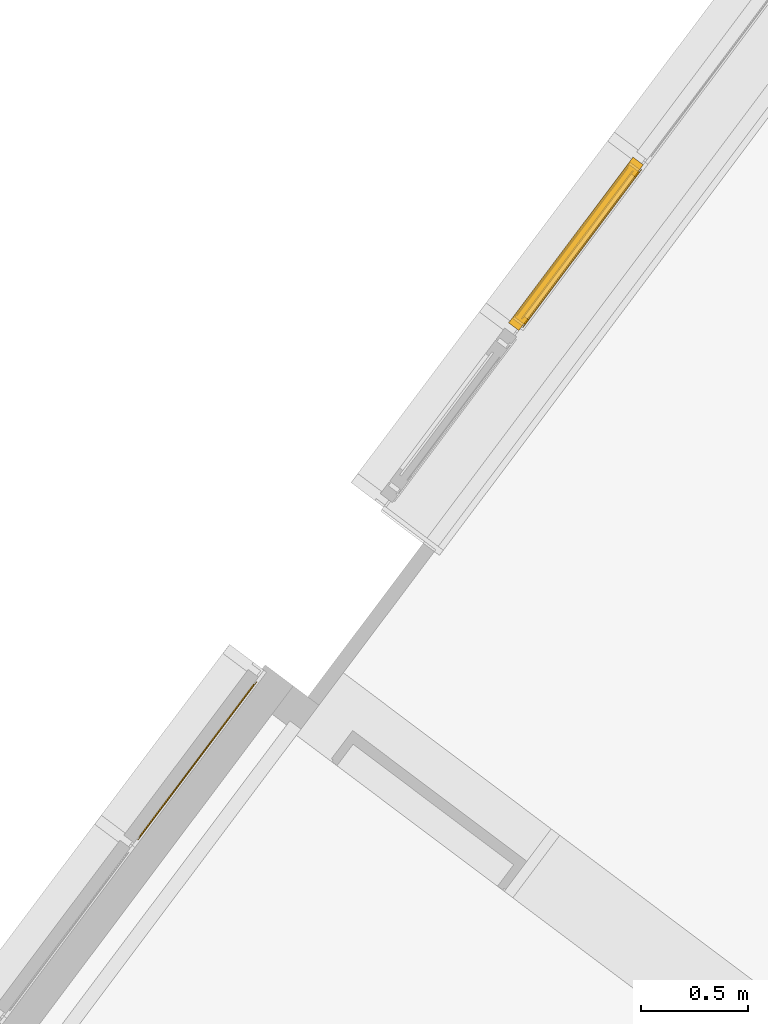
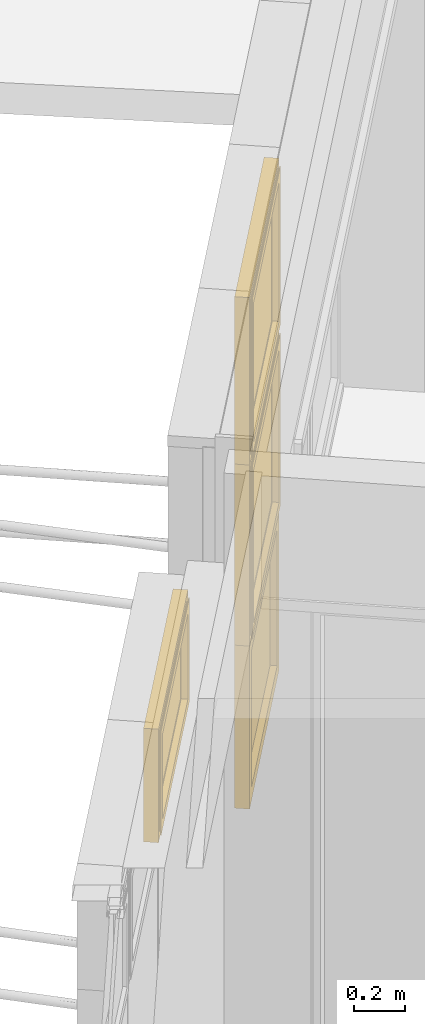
# One storey, part 161 of 243: 4 windows, 2 elements without a shape of their own.
"""IFC2X3 building model written with IfcOpenShell, lengths in metres."""

from ifc_helpers import new_model, entity, si_unit, converted_unit, derived_unit, direction, frame, origin, place, context, subcontext, project, spatial, faceted_brep, source, transform, mapped, material, material_list, type_object, type_shapes, element, aggregate, save


model = new_model("IFC2X3")

# Units and contexts
model_context = context("Model", 3, precision=1e-05, world=origin(), true_north=direction((6.123031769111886e-17, 1.0)))
body_context = subcontext(model_context, "Body", "Model", "MODEL_VIEW")
ifc_project = project(units=[si_unit("LENGTHUNIT", "METRE"), si_unit("AREAUNIT", "SQUARE_METRE"), si_unit("VOLUMEUNIT", "CUBIC_METRE"), converted_unit("PLANEANGLEUNIT", "DEGREE", entity("IfcRatioMeasure", 0.017453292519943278), si_unit("PLANEANGLEUNIT", "RADIAN"), dimensions=[0, 0, 0, 0, 0, 0, 0]), si_unit("MASSUNIT", "GRAM", prefix="KILO"), derived_unit("MASSDENSITYUNIT", [(si_unit("MASSUNIT", "GRAM", prefix="KILO"), 1), (si_unit("LENGTHUNIT", "METRE"), -3)]), derived_unit("IONCONCENTRATIONUNIT", [(si_unit("MASSUNIT", "GRAM", prefix="KILO"), 1), (si_unit("LENGTHUNIT", "METRE"), -3)]), derived_unit("MOMENTOFINERTIAUNIT", [(si_unit("LENGTHUNIT", "METRE"), 4)]), si_unit("TIMEUNIT", "SECOND"), si_unit("FREQUENCYUNIT", "HERTZ"), si_unit("THERMODYNAMICTEMPERATUREUNIT", "DEGREE_CELSIUS"), derived_unit("THERMALTRANSMITTANCEUNIT", [(si_unit("MASSUNIT", "GRAM", prefix="KILO"), 1), (si_unit("THERMODYNAMICTEMPERATUREUNIT", "KELVIN"), -1), (si_unit("TIMEUNIT", "SECOND"), -3)]), derived_unit("THERMALCONDUCTANCEUNIT", [(si_unit("MASSUNIT", "GRAM", prefix="KILO"), 1), (si_unit("THERMODYNAMICTEMPERATUREUNIT", "KELVIN"), -1), (si_unit("TIMEUNIT", "SECOND"), -3), (si_unit("LENGTHUNIT", "METRE"), 1)]), derived_unit("VOLUMETRICFLOWRATEUNIT", [(si_unit("LENGTHUNIT", "METRE"), 3), (si_unit("TIMEUNIT", "SECOND"), -1)]), derived_unit("MASSFLOWRATEUNIT", [(si_unit("MASSUNIT", "GRAM", prefix="KILO"), 1), (si_unit("TIMEUNIT", "SECOND"), -1)]), derived_unit("ROTATIONALFREQUENCYUNIT", [(si_unit("TIMEUNIT", "SECOND"), -1)]), si_unit("ELECTRICCURRENTUNIT", "AMPERE"), si_unit("ELECTRICVOLTAGEUNIT", "VOLT"), si_unit("POWERUNIT", "WATT"), si_unit("FORCEUNIT", "NEWTON", prefix="KILO"), si_unit("ILLUMINANCEUNIT", "LUX"), si_unit("LUMINOUSFLUXUNIT", "LUMEN"), si_unit("LUMINOUSINTENSITYUNIT", "CANDELA"), derived_unit("USERDEFINED", [(si_unit("MASSUNIT", "GRAM", prefix="KILO"), -1), (si_unit("LENGTHUNIT", "METRE"), -2), (si_unit("TIMEUNIT", "SECOND"), 3), (si_unit("LUMINOUSFLUXUNIT", "LUMEN"), 1)]), derived_unit("USERDEFINED", [(si_unit("MASSUNIT", "GRAM", prefix="KILO"), 1), (si_unit("TIMEUNIT", "SECOND"), -3), (si_unit("LENGTHUNIT", "METRE"), 3), (si_unit("ELECTRICCURRENTUNIT", "AMPERE"), -2)]), derived_unit("SOUNDPOWERUNIT", [(si_unit("MASSUNIT", "GRAM", prefix="KILO"), 1), (si_unit("TIMEUNIT", "SECOND"), -3), (si_unit("LENGTHUNIT", "METRE"), 2)]), derived_unit("SOUNDPRESSUREUNIT", [(si_unit("MASSUNIT", "GRAM", prefix="KILO"), 1), (si_unit("LENGTHUNIT", "METRE"), -1), (si_unit("TIMEUNIT", "SECOND"), -2)]), derived_unit("LINEARVELOCITYUNIT", [(si_unit("LENGTHUNIT", "METRE"), 1), (si_unit("TIMEUNIT", "SECOND"), -1)]), si_unit("PRESSUREUNIT", "PASCAL"), derived_unit("USERDEFINED", [(si_unit("MASSUNIT", "GRAM", prefix="KILO"), 1), (si_unit("LENGTHUNIT", "METRE"), -2), (si_unit("TIMEUNIT", "SECOND"), -2)]), derived_unit("LINEARFORCEUNIT", [(si_unit("MASSUNIT", "GRAM", prefix="KILO"), 1), (si_unit("TIMEUNIT", "SECOND"), -2)]), derived_unit("PLANARFORCEUNIT", [(si_unit("MASSUNIT", "GRAM", prefix="KILO"), 1), (si_unit("LENGTHUNIT", "METRE"), -1), (si_unit("TIMEUNIT", "SECOND"), -2)]), derived_unit("SPECIFICHEATCAPACITYUNIT", [(si_unit("THERMODYNAMICTEMPERATUREUNIT", "KELVIN"), -1), (si_unit("LENGTHUNIT", "METRE"), 2), (si_unit("TIMEUNIT", "SECOND"), -2)]), derived_unit("HEATINGVALUEUNIT", [(si_unit("LENGTHUNIT", "METRE"), 2), (si_unit("TIMEUNIT", "SECOND"), -2)]), derived_unit("VAPORPERMEABILITYUNIT", [(si_unit("LENGTHUNIT", "METRE"), -1), (si_unit("TIMEUNIT", "SECOND"), 1)]), derived_unit("DYNAMICVISCOSITYUNIT", [(si_unit("MASSUNIT", "GRAM", prefix="KILO"), 1), (si_unit("TIMEUNIT", "SECOND"), -1), (si_unit("LENGTHUNIT", "METRE"), -1)]), derived_unit("THERMALEXPANSIONCOEFFICIENTUNIT", [(si_unit("THERMODYNAMICTEMPERATUREUNIT", "KELVIN"), -1)]), derived_unit("MODULUSOFELASTICITYUNIT", [(si_unit("MASSUNIT", "GRAM", prefix="KILO"), 1), (si_unit("LENGTHUNIT", "METRE"), -1), (si_unit("TIMEUNIT", "SECOND"), -2)]), derived_unit("ISOTHERMALMOISTURECAPACITYUNIT", [(si_unit("LENGTHUNIT", "METRE"), 3), (si_unit("MASSUNIT", "GRAM", prefix="KILO"), -1)]), derived_unit("MOISTUREDIFFUSIVITYUNIT", [(si_unit("TIMEUNIT", "SECOND"), -1), (si_unit("LENGTHUNIT", "METRE"), 2)])], contexts=[model_context])

# Site, building, storey
site_placement = place(None, frame((0.0, 0.0, 235.0), z_axis=(0.0, 0.0, 1.0), x_axis=(-0.7996477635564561, 0.6004693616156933, 0.0)))
site = spatial("IfcSite", under=ifc_project, at=site_placement, Name="Default", CompositionType="ELEMENT")
building_placement = place(site_placement, origin())
building = spatial("IfcBuilding", under=site, at=building_placement, CompositionType="ELEMENT")
storey_placement = place(building_placement, origin())
storey = spatial("IfcBuildingStorey", under=building, at=storey_placement, Name="P0- Escola", CompositionType="ELEMENT", Elevation=0.0)

# Curtain wall, windows
curtain_wall_type = type_object("IfcCurtainWallType", Name="Muro cortina:MC- EXT- MC2", PredefinedType="NOTDEFINED")
curtain_wall_1_placement = place(storey_placement, origin())
curtain_wall_1 = element("IfcCurtainWall", 1, at=curtain_wall_1_placement, inside=storey, type_object=curtain_wall_type, Name="Muro cortina:MC- EXT- MC2", ObjectType="Muro cortina:MC- EXT- MC2")
ifc_material_1 = material(Name="_Vidre")
ifc_material_2 = material(Name="_Alumini- T1- Perfil")
ifc_material_list = material_list([ifc_material_1, ifc_material_2])
window_style_1 = type_object("IfcWindowStyle", Name="MC- Alu- Conjunt vidre fix- 62x60 cm:MC- Alu- Conjunt vidre fix- 62x60 cm", ConstructionType="NOTDEFINED", OperationType="NOTDEFINED", ParameterTakesPrecedence=False, Sizeable=False, material=ifc_material_list)
shared_shape_1 = source(origin(), body_context, "Body", "Brep", [
    faceted_brep([(-0.43619328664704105, -0.007600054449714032, 0.048806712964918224), (0.43619328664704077, -0.007600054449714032, 0.048806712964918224), (0.43619328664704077, -0.03160022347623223, 0.048806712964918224), (-0.43619328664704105, -0.03160022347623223, 0.048806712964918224), (-0.43619328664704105, -0.007600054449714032, 0.7387000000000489), (0.43619328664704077, -0.007600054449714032, 0.7387000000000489), (0.43619328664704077, -0.03160022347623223, 0.7387000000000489), (-0.43619328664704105, -0.03160022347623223, 0.7387000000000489)], [[[0, 1, 2, 3]], [[4, 5, 1, 0]], [[5, 6, 2, 1]], [[6, 7, 3, 2]], [[7, 4, 0, 3]], [[4, 7, 6, 5]]]),
    faceted_brep([(-0.4849999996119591, -0.05999999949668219, 0.7877000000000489), (-0.4849999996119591, 0.0, 0.7877000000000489), (-0.4849999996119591, 0.0, 0.0), (-0.4849999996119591, -0.05999999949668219, 0.0), (-0.422193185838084, 0.0, 0.7248931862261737), (-0.4221931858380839, 0.0, 0.06280681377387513), (0.42219318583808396, 0.0, 0.06280681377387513), (0.42219318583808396, 0.0, 0.7248931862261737), (0.4849999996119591, 0.0, 0.7877000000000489), (0.4849999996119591, 0.0, 0.0), (0.4849999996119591, -0.05999999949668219, 0.0), (0.4849999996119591, -0.05999999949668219, 0.7877000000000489), (0.4221960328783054, -0.05999999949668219, 0.7248960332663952), (0.4221960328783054, -0.05999999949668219, 0.0628039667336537), (-0.4221960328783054, -0.05999999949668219, 0.0628039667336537), (-0.4221960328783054, -0.05999999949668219, 0.7248960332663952), (-0.4221960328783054, -0.03160022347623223, 0.7248960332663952), (-0.4221960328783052, -0.03160022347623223, 0.06280396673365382), (0.4221960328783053, -0.03160022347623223, 0.06280396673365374), (0.42219603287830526, -0.03160022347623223, 0.7248960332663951), (0.43619328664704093, -0.03160022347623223, 0.7388932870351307), (0.43619328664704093, -0.03160022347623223, 0.048806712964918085), (-0.43619328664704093, -0.03160022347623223, 0.04880671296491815), (-0.43619328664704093, -0.03160022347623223, 0.7388932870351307), (-0.43619328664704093, -0.007600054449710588, 0.7388932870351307), (-0.43619328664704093, -0.007600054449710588, 0.04880671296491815), (0.43619328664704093, -0.007600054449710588, 0.048806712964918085), (0.43619328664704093, -0.007600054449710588, 0.7388932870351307), (0.42219318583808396, -0.007600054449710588, 0.7248931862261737), (0.42219318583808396, -0.007600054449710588, 0.06280681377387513), (-0.42219318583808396, -0.007600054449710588, 0.06280681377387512), (-0.42219318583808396, -0.007600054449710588, 0.7248931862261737)], [[[0, 1, 2, 3]], [[4, 5, 6, 7], [8, 9, 2, 1]], [[3, 2, 9, 10]], [[0, 3, 10, 11], [12, 13, 14, 15]], [[16, 15, 14, 17]], [[17, 14, 13, 18]], [[16, 17, 18, 19], [20, 21, 22, 23]], [[24, 23, 22, 25]], [[25, 22, 21, 26]], [[24, 25, 26, 27], [28, 29, 30, 31]], [[4, 31, 30, 5]], [[5, 30, 29, 6]], [[10, 9, 8, 11]], [[18, 13, 12, 19]], [[26, 21, 20, 27]], [[6, 29, 28, 7]], [[11, 8, 1, 0]], [[19, 12, 15, 16]], [[27, 20, 23, 24]], [[7, 28, 31, 4]]], outer=[[True], [False, True], [True], [True, False], [True], [True], [False, True], [True], [True], [True, False], [True], [True], [True], [True], [True], [True], [True], [True], [True], [True]]),
])
type_shapes(window_style_1, [shared_shape_1])
window_1_placement = place(curtain_wall_1_placement, frame((23.94514768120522, -31.915191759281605, 0.03229999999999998), z_axis=(0.0, 0.0, 1.0), x_axis=(0.0, -1.0, 0.0)))
window_1 = element("IfcWindow", 2, at=window_1_placement, type_object=window_style_1, material=ifc_material_list, Name="MC- Alu- Conjunt vidre fix- 62x60 cm:MC- Alu- Conjunt vidre fix- 62x60 cm", ObjectType="MC- Alu- Conjunt vidre fix- 62x60 cm:MC- Alu- Conjunt vidre fix- 62x60 cm", OverallHeight=0.7877000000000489, OverallWidth=0.9699999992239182, context=body_context, shape_type="MappedRepresentation", body=[
    mapped(shared_shape_1, transform((0.0, 0.0, 0.0), scale=1.0)),
])
window_style_2 = type_object("IfcWindowStyle", Name="MC- Alu- Conjunt finestra basculant- 68x68 cm:MC- Alu- Conjunt finestra basculant- 68x68 cm", ConstructionType="NOTDEFINED", OperationType="NOTDEFINED", ParameterTakesPrecedence=False, Sizeable=False, material=ifc_material_list)
shared_shape_2 = source(origin(), body_context, "Body", "Brep", [
    faceted_brep([(-0.43291170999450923, -0.03559830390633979, 0.051999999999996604), (-0.43291170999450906, -0.011598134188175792, 0.051999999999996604), (0.43291170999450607, -0.011598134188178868, 0.051999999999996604), (0.43291170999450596, -0.03559830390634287, 0.051999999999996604), (-0.43291170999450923, -0.03559830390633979, 0.8228027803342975), (-0.4329117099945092, -0.011598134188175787, 0.8228027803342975), (0.43291170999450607, -0.011598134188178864, 0.8228027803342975), (0.43291170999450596, -0.03559830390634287, 0.8228027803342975)], [[[0, 1, 2, 3]], [[4, 5, 1, 0]], [[5, 6, 2, 1]], [[6, 7, 3, 2]], [[7, 4, 0, 3]], [[4, 7, 6, 5]]]),
    faceted_brep([(0.4172108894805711, -0.009998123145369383, 0.8071019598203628), (0.4172108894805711, -0.007998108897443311, 0.8071019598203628), (0.4172108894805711, -0.007998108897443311, 0.06789804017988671), (0.4172108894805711, -0.009998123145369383, 0.06789804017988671), (0.44610892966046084, -0.007998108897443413, 0.8360000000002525), (0.44610892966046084, -0.007998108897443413, 0.03899999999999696), (-0.44610892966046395, -0.007998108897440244, 0.03899999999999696), (-0.44610892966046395, -0.007998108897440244, 0.8360000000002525), (-0.4172108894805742, -0.007998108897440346, 0.8071019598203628), (-0.4172108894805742, -0.007998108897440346, 0.06789804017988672), (-0.4172108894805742, -0.009998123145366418, 0.06789804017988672), (-0.4172108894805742, -0.009998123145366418, 0.8071019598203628), (-0.4329117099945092, -0.00999812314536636, 0.8228027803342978), (-0.4329117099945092, -0.009998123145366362, 0.05219721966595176), (0.43291170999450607, -0.009998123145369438, 0.052197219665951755), (0.43291170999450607, -0.009998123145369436, 0.8228027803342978), (0.4329117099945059, -0.04079986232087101, 0.8228027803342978), (0.4329117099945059, -0.04079986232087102, 0.052197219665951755), (-0.4329117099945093, -0.04079986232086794, 0.05219721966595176), (-0.4329117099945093, -0.04079986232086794, 0.8228027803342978), (-0.41721088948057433, -0.040799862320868, 0.8071019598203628), (-0.41721088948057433, -0.040799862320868, 0.06789804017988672), (0.41721088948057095, -0.04079986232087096, 0.06789804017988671), (0.41721088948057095, -0.04079986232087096, 0.8071019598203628), (0.41721088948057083, -0.06800005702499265, 0.8071019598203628), (0.4172108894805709, -0.06800005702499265, 0.06789804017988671), (-0.4172108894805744, -0.0680000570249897, 0.06789804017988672), (-0.4172108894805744, -0.0680000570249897, 0.8071019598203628), (-0.4636128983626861, -0.06800005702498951, 0.8535039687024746), (-0.4636128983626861, -0.06800005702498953, 0.021496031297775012), (0.4636128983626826, -0.06800005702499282, 0.021496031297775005), (0.4636128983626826, -0.06800005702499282, 0.8535039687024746), (0.4636128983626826, -0.0645000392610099, 0.8535039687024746), (0.4636128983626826, -0.0645000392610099, 0.021496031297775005), (-0.4636128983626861, -0.06450003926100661, 0.021496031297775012), (-0.4636128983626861, -0.06450003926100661, 0.8535039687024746), (-0.44610892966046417, -0.06450003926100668, 0.8360000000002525), (-0.44610892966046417, -0.06450003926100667, 0.03899999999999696), (0.4461089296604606, -0.06450003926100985, 0.038999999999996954), (0.4461089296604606, -0.06450003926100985, 0.8360000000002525)], [[[0, 1, 2, 3]], [[4, 5, 6, 7], [8, 9, 2, 1]], [[3, 2, 9, 10]], [[0, 3, 10, 11], [12, 13, 14, 15]], [[16, 15, 14, 17]], [[17, 14, 13, 18]], [[16, 17, 18, 19], [20, 21, 22, 23]], [[24, 23, 22, 25]], [[25, 22, 21, 26]], [[24, 25, 26, 27], [28, 29, 30, 31]], [[32, 31, 30, 33]], [[33, 30, 29, 34]], [[32, 33, 34, 35], [36, 37, 38, 39]], [[4, 39, 38, 5]], [[5, 38, 37, 6]], [[10, 9, 8, 11]], [[18, 13, 12, 19]], [[26, 21, 20, 27]], [[34, 29, 28, 35]], [[6, 37, 36, 7]], [[11, 8, 1, 0]], [[19, 12, 15, 16]], [[27, 20, 23, 24]], [[35, 28, 31, 32]], [[7, 36, 39, 4]]], outer=[[True], [True, False], [True], [False, True], [True], [True], [True, False], [True], [True], [False, True], [True], [True], [True, False], [True], [True], [True], [True], [True], [True], [True], [True], [True], [True], [True], [True]]),
    faceted_brep([(-0.42219318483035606, 0.0, 0.8121931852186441), (-0.42219318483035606, -0.0040000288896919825, 0.8121931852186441), (-0.422193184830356, -0.0040000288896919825, 0.06280681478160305), (-0.42219318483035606, 0.0, 0.06280681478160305), (-0.4575998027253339, -0.0040000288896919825, 0.847599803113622), (-0.4575998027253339, -0.0040000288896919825, 0.027400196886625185), (0.4575998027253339, -0.0040000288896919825, 0.027400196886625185), (0.4575998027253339, -0.0040000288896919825, 0.847599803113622), (0.422193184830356, -0.0040000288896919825, 0.812193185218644), (0.42219318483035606, -0.0040000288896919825, 0.06280681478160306), (0.42219318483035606, 0.0, 0.06280681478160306), (0.42219318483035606, 0.0, 0.8121931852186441), (0.4849999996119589, 0.0, 0.8750000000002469), (0.48499999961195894, 0.0, 0.0), (-0.4849999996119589, 0.0, 0.0), (-0.48499999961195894, 0.0, 0.8750000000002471), (-0.48499999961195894, -0.05999999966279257, 0.8750000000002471), (-0.48499999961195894, -0.05999999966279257, 0.0), (0.48499999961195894, -0.05999999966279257, 0.0), (0.48499999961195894, -0.05999999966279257, 0.8750000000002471), (0.45759980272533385, -0.05999999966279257, 0.8475998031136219), (0.4575998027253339, -0.05999999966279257, 0.027400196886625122), (-0.45759980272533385, -0.05999999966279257, 0.027400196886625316), (-0.4575998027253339, -0.05999999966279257, 0.847599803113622)], [[[0, 1, 2, 3]], [[4, 5, 6, 7], [8, 9, 2, 1]], [[3, 2, 9, 10]], [[0, 3, 10, 11], [12, 13, 14, 15]], [[16, 15, 14, 17]], [[17, 14, 13, 18]], [[16, 17, 18, 19], [20, 21, 22, 23]], [[4, 23, 22, 5]], [[5, 22, 21, 6]], [[10, 9, 8, 11]], [[18, 13, 12, 19]], [[6, 21, 20, 7]], [[11, 8, 1, 0]], [[19, 12, 15, 16]], [[7, 20, 23, 4]]], outer=[[True], [True, False], [True], [False, True], [True], [True], [True, False], [True], [True], [True], [True], [True], [True], [True], [True]]),
])
type_shapes(window_style_2, [shared_shape_2])
window_2_placement = place(curtain_wall_1_placement, frame((23.94514768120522, -31.915191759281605, 0.8200000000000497), z_axis=(0.0, 0.0, 1.0), x_axis=(0.0, -1.0, 0.0)))
window_2 = element("IfcWindow", 3, at=window_2_placement, type_object=window_style_2, material=ifc_material_list, Name="MC- Alu- Conjunt finestra basculant- 68x68 cm:MC- Alu- Conjunt finestra basculant- 68x68 cm", ObjectType="MC- Alu- Conjunt finestra basculant- 68x68 cm:MC- Alu- Conjunt finestra basculant- 68x68 cm", OverallHeight=0.8750000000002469, OverallWidth=0.9699999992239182, context=body_context, shape_type="MappedRepresentation", body=[
    mapped(shared_shape_2, transform((0.0, 0.0, 0.0), scale=1.0)),
])
window_style_3 = type_object("IfcWindowStyle", Name="MC- Alu- Conjunt finestra basculant- 68x68 cm:MC- Alu- Conjunt finestra basculant- 68x68 cm", ConstructionType="NOTDEFINED", OperationType="NOTDEFINED", ParameterTakesPrecedence=False, Sizeable=False, material=ifc_material_list)
shared_shape_3 = source(origin(), body_context, "Body", "Brep", [
    faceted_brep([(-0.43291170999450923, -0.03559830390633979, 0.051999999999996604), (-0.43291170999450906, -0.011598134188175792, 0.051999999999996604), (0.43291170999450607, -0.011598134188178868, 0.051999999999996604), (0.43291170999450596, -0.03559830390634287, 0.051999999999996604), (-0.43291170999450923, -0.03559830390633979, 0.7565527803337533), (-0.4329117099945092, -0.011598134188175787, 0.7565527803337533), (0.43291170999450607, -0.011598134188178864, 0.7565527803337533), (0.43291170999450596, -0.03559830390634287, 0.7565527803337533)], [[[0, 1, 2, 3]], [[4, 5, 1, 0]], [[5, 6, 2, 1]], [[6, 7, 3, 2]], [[7, 4, 0, 3]], [[4, 7, 6, 5]]]),
    faceted_brep([(0.4172108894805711, -0.009998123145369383, 0.7408519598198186), (0.4172108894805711, -0.007998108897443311, 0.7408519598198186), (0.4172108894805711, -0.007998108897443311, 0.06789804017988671), (0.4172108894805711, -0.009998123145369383, 0.06789804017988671), (0.44610892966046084, -0.007998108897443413, 0.7697499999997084), (0.44610892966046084, -0.007998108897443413, 0.03899999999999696), (-0.44610892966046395, -0.007998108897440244, 0.03899999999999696), (-0.44610892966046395, -0.007998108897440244, 0.7697499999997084), (-0.4172108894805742, -0.007998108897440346, 0.7408519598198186), (-0.4172108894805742, -0.007998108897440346, 0.06789804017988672), (-0.4172108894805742, -0.009998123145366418, 0.06789804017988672), (-0.4172108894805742, -0.009998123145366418, 0.7408519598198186), (-0.4329117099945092, -0.00999812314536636, 0.7565527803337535), (-0.4329117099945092, -0.009998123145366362, 0.05219721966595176), (0.43291170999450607, -0.009998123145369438, 0.052197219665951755), (0.43291170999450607, -0.009998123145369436, 0.7565527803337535), (0.4329117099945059, -0.04079986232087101, 0.7565527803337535), (0.4329117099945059, -0.04079986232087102, 0.052197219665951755), (-0.4329117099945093, -0.04079986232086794, 0.05219721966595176), (-0.4329117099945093, -0.04079986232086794, 0.7565527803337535), (-0.41721088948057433, -0.040799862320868, 0.7408519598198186), (-0.41721088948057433, -0.040799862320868, 0.06789804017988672), (0.41721088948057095, -0.04079986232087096, 0.06789804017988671), (0.41721088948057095, -0.04079986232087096, 0.7408519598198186), (0.41721088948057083, -0.06800005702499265, 0.7408519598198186), (0.4172108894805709, -0.06800005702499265, 0.06789804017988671), (-0.4172108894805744, -0.0680000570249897, 0.06789804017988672), (-0.4172108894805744, -0.0680000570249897, 0.7408519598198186), (-0.4636128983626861, -0.06800005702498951, 0.7872539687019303), (-0.4636128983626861, -0.06800005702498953, 0.021496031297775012), (0.4636128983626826, -0.06800005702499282, 0.021496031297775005), (0.4636128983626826, -0.06800005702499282, 0.7872539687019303), (0.4636128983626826, -0.0645000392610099, 0.7872539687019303), (0.4636128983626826, -0.0645000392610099, 0.021496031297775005), (-0.4636128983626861, -0.06450003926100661, 0.021496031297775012), (-0.4636128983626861, -0.06450003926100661, 0.7872539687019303), (-0.44610892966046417, -0.06450003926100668, 0.7697499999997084), (-0.44610892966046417, -0.06450003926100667, 0.03899999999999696), (0.4461089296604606, -0.06450003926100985, 0.038999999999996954), (0.4461089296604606, -0.06450003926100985, 0.7697499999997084)], [[[0, 1, 2, 3]], [[4, 5, 6, 7], [8, 9, 2, 1]], [[3, 2, 9, 10]], [[0, 3, 10, 11], [12, 13, 14, 15]], [[16, 15, 14, 17]], [[17, 14, 13, 18]], [[16, 17, 18, 19], [20, 21, 22, 23]], [[24, 23, 22, 25]], [[25, 22, 21, 26]], [[24, 25, 26, 27], [28, 29, 30, 31]], [[32, 31, 30, 33]], [[33, 30, 29, 34]], [[32, 33, 34, 35], [36, 37, 38, 39]], [[4, 39, 38, 5]], [[5, 38, 37, 6]], [[10, 9, 8, 11]], [[18, 13, 12, 19]], [[26, 21, 20, 27]], [[34, 29, 28, 35]], [[6, 37, 36, 7]], [[11, 8, 1, 0]], [[19, 12, 15, 16]], [[27, 20, 23, 24]], [[35, 28, 31, 32]], [[7, 36, 39, 4]]], outer=[[True], [True, False], [True], [False, True], [True], [True], [True, False], [True], [True], [False, True], [True], [True], [True, False], [True], [True], [True], [True], [True], [True], [True], [True], [True], [True], [True], [True]]),
    faceted_brep([(-0.42219318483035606, 0.0, 0.7459431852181), (-0.42219318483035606, -0.0040000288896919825, 0.7459431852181), (-0.422193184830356, -0.0040000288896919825, 0.06280681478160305), (-0.42219318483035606, 0.0, 0.06280681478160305), (-0.4575998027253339, -0.0040000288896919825, 0.7813498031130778), (-0.4575998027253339, -0.0040000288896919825, 0.027400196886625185), (0.4575998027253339, -0.0040000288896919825, 0.027400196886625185), (0.4575998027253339, -0.0040000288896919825, 0.7813498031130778), (0.422193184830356, -0.0040000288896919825, 0.7459431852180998), (0.42219318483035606, -0.0040000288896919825, 0.06280681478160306), (0.42219318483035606, 0.0, 0.06280681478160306), (0.42219318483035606, 0.0, 0.7459431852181), (0.48499999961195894, 0.0, 0.8087499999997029), (0.48499999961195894, 0.0, 0.0), (-0.48499999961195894, 0.0, 0.0), (-0.48499999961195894, 0.0, 0.8087499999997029), (-0.48499999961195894, -0.05999999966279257, 0.8087499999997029), (-0.48499999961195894, -0.05999999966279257, 0.0), (0.48499999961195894, -0.05999999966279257, 0.0), (0.48499999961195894, -0.05999999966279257, 0.8087499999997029), (0.4575998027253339, -0.05999999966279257, 0.7813498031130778), (0.4575998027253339, -0.05999999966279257, 0.027400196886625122), (-0.4575998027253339, -0.05999999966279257, 0.02740019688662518), (-0.4575998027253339, -0.05999999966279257, 0.7813498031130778)], [[[0, 1, 2, 3]], [[4, 5, 6, 7], [8, 9, 2, 1]], [[3, 2, 9, 10]], [[0, 3, 10, 11], [12, 13, 14, 15]], [[16, 15, 14, 17]], [[17, 14, 13, 18]], [[16, 17, 18, 19], [20, 21, 22, 23]], [[4, 23, 22, 5]], [[5, 22, 21, 6]], [[10, 9, 8, 11]], [[18, 13, 12, 19]], [[6, 21, 20, 7]], [[11, 8, 1, 0]], [[19, 12, 15, 16]], [[7, 20, 23, 4]]], outer=[[True], [True, False], [True], [False, True], [True], [True], [True, False], [True], [True], [True], [True], [True], [True], [True], [True]]),
])
type_shapes(window_style_3, [shared_shape_3])
window_3_placement = place(curtain_wall_1_placement, frame((23.94514768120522, -31.915191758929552, 1.6950000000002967), z_axis=(0.0, 0.0, 1.0), x_axis=(0.0, -1.0, 0.0)))
window_3 = element("IfcWindow", 4, at=window_3_placement, type_object=window_style_3, material=ifc_material_list, Name="MC- Alu- Conjunt finestra basculant- 68x68 cm:MC- Alu- Conjunt finestra basculant- 68x68 cm", ObjectType="MC- Alu- Conjunt finestra basculant- 68x68 cm:MC- Alu- Conjunt finestra basculant- 68x68 cm", OverallHeight=0.8087499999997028, OverallWidth=0.9699999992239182, context=body_context, shape_type="MappedRepresentation", body=[
    mapped(shared_shape_3, transform((0.0, 0.0, 0.0), scale=1.0)),
])
aggregate(curtain_wall_1, [window_1, window_2, window_3])

# Curtain wall, window
curtain_wall_2_placement = place(storey_placement, origin())
curtain_wall_2 = element("IfcCurtainWall", 5, at=curtain_wall_2_placement, inside=storey, type_object=curtain_wall_type, Name="Muro cortina:MC- EXT- MC2", ObjectType="Muro cortina:MC- EXT- MC2")
window_style_4 = type_object("IfcWindowStyle", Name="MC- Alu- Conjunt finestra basculant- 68x68 cm:MC- Alu- Conjunt finestra basculant- 68x68 cm", ConstructionType="NOTDEFINED", OperationType="NOTDEFINED", ParameterTakesPrecedence=False, Sizeable=False, material=ifc_material_list)
shared_shape_4 = source(origin(), body_context, "Body", "Brep", [
    faceted_brep([(-0.4329117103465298, -0.03559830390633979, 0.051999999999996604), (-0.4329117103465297, -0.011598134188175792, 0.051999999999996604), (0.43291171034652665, -0.011598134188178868, 0.051999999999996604), (0.4329117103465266, -0.03559830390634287, 0.051999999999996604), (-0.4329117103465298, -0.03559830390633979, 0.49655278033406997), (-0.43291171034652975, -0.011598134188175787, 0.49655278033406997), (0.43291171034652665, -0.011598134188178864, 0.49655278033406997), (0.4329117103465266, -0.03559830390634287, 0.49655278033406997)], [[[0, 1, 2, 3]], [[4, 5, 1, 0]], [[5, 6, 2, 1]], [[6, 7, 3, 2]], [[7, 4, 0, 3]], [[4, 7, 6, 5]]]),
    faceted_brep([(0.4172108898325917, -0.009998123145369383, 0.48085195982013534), (0.4172108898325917, -0.007998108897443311, 0.4808519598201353), (0.4172108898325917, -0.007998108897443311, 0.06789804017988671), (0.4172108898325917, -0.009998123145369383, 0.06789804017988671), (0.4461089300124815, -0.007998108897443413, 0.509750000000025), (0.4461089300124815, -0.007998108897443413, 0.03899999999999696), (-0.4461089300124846, -0.007998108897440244, 0.03899999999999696), (-0.4461089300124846, -0.007998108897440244, 0.509750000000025), (-0.4172108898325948, -0.007998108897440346, 0.4808519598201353), (-0.4172108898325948, -0.007998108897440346, 0.06789804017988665), (-0.4172108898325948, -0.009998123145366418, 0.06789804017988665), (-0.4172108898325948, -0.009998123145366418, 0.4808519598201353), (-0.43291171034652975, -0.00999812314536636, 0.49655278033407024), (-0.43291171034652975, -0.009998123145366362, 0.05219721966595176), (0.43291171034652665, -0.009998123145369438, 0.052197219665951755), (0.43291171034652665, -0.009998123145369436, 0.49655278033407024), (0.43291171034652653, -0.04079986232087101, 0.49655278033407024), (0.43291171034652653, -0.04079986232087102, 0.052197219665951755), (-0.4329117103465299, -0.04079986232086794, 0.05219721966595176), (-0.4329117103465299, -0.04079986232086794, 0.49655278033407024), (-0.41721088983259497, -0.040799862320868, 0.4808519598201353), (-0.41721088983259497, -0.040799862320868, 0.06789804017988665), (0.4172108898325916, -0.04079986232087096, 0.06789804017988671), (0.4172108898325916, -0.04079986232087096, 0.48085195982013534), (0.4172108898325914, -0.06800005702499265, 0.48085195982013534), (0.4172108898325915, -0.06800005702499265, 0.06789804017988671), (-0.417210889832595, -0.0680000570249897, 0.06789804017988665), (-0.417210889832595, -0.0680000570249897, 0.4808519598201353), (-0.46361289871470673, -0.06800005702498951, 0.527253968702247), (-0.46361289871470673, -0.06800005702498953, 0.021496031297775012), (0.4636128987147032, -0.06800005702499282, 0.021496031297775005), (0.4636128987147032, -0.06800005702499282, 0.527253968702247), (0.4636128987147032, -0.0645000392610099, 0.527253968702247), (0.4636128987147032, -0.0645000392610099, 0.021496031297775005), (-0.46361289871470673, -0.06450003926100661, 0.021496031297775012), (-0.46361289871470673, -0.06450003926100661, 0.527253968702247), (-0.44610893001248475, -0.06450003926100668, 0.509750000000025), (-0.4461089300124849, -0.06450003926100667, 0.0389999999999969), (0.44610893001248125, -0.06450003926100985, 0.038999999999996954), (0.44610893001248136, -0.06450003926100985, 0.5097500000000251)], [[[0, 1, 2, 3]], [[4, 5, 6, 7], [8, 9, 2, 1]], [[3, 2, 9, 10]], [[0, 3, 10, 11], [12, 13, 14, 15]], [[16, 15, 14, 17]], [[17, 14, 13, 18]], [[16, 17, 18, 19], [20, 21, 22, 23]], [[24, 23, 22, 25]], [[25, 22, 21, 26]], [[24, 25, 26, 27], [28, 29, 30, 31]], [[32, 31, 30, 33]], [[33, 30, 29, 34]], [[32, 33, 34, 35], [36, 37, 38, 39]], [[4, 39, 38, 5]], [[5, 38, 37, 6]], [[10, 9, 8, 11]], [[18, 13, 12, 19]], [[26, 21, 20, 27]], [[34, 29, 28, 35]], [[6, 37, 36, 7]], [[11, 8, 1, 0]], [[19, 12, 15, 16]], [[27, 20, 23, 24]], [[35, 28, 31, 32]], [[7, 36, 39, 4]]], outer=[[True], [True, False], [True], [False, True], [True], [True], [True, False], [True], [True], [False, True], [True], [True], [True, False], [True], [True], [True], [True], [True], [True], [True], [True], [True], [True], [True], [True]]),
    faceted_brep([(-0.42219318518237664, 0.0, 0.4859431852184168), (-0.42219318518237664, -0.0040000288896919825, 0.4859431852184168), (-0.42219318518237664, -0.0040000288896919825, 0.06280681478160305), (-0.42219318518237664, 0.0, 0.06280681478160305), (-0.45759980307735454, -0.0040000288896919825, 0.5213498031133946), (-0.45759980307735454, -0.0040000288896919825, 0.027400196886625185), (0.45759980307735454, -0.0040000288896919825, 0.027400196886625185), (0.45759980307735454, -0.0040000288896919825, 0.5213498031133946), (0.42219318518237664, -0.0040000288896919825, 0.4859431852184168), (0.42219318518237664, -0.0040000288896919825, 0.06280681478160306), (0.42219318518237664, 0.0, 0.06280681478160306), (0.42219318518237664, 0.0, 0.4859431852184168), (0.4849999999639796, 0.0, 0.5487500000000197), (0.4849999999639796, 0.0, 0.0), (-0.4849999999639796, 0.0, 0.0), (-0.4849999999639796, 0.0, 0.5487500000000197), (-0.4849999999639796, -0.05999999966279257, 0.5487500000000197), (-0.4849999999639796, -0.05999999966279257, 0.0), (0.4849999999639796, -0.05999999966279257, 0.0), (0.4849999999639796, -0.05999999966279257, 0.5487500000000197), (0.45759980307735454, -0.05999999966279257, 0.5213498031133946), (0.45759980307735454, -0.05999999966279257, 0.027400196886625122), (-0.45759980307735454, -0.05999999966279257, 0.02740019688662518), (-0.45759980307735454, -0.05999999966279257, 0.5213498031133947)], [[[0, 1, 2, 3]], [[4, 5, 6, 7], [8, 9, 2, 1]], [[3, 2, 9, 10]], [[0, 3, 10, 11], [12, 13, 14, 15]], [[16, 15, 14, 17]], [[17, 14, 13, 18]], [[16, 17, 18, 19], [20, 21, 22, 23]], [[4, 23, 22, 5]], [[5, 22, 21, 6]], [[10, 9, 8, 11]], [[18, 13, 12, 19]], [[6, 21, 20, 7]], [[11, 8, 1, 0]], [[19, 12, 15, 16]], [[7, 20, 23, 4]]], outer=[[True], [True, False], [True], [False, True], [True], [True], [True, False], [True], [True], [True], [True], [True], [True], [True], [True]]),
])
type_shapes(window_style_4, [shared_shape_4])
window_4_placement = place(curtain_wall_2_placement, frame((23.945147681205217, -28.915191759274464, 1.9549999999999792), z_axis=(0.0, 0.0, 1.0), x_axis=(0.0, -1.0, 0.0)))
window_4 = element("IfcWindow", 6, at=window_4_placement, type_object=window_style_4, material=ifc_material_list, Name="MC- Alu- Conjunt finestra basculant- 68x68 cm:MC- Alu- Conjunt finestra basculant- 68x68 cm", ObjectType="MC- Alu- Conjunt finestra basculant- 68x68 cm:MC- Alu- Conjunt finestra basculant- 68x68 cm", OverallHeight=0.5487500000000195, OverallWidth=0.9699999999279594, context=body_context, shape_type="MappedRepresentation", body=[
    mapped(shared_shape_4, transform((0.0, 0.0, 0.0), scale=1.0)),
])
aggregate(curtain_wall_2, [window_4])

save(model, "model.ifc")
